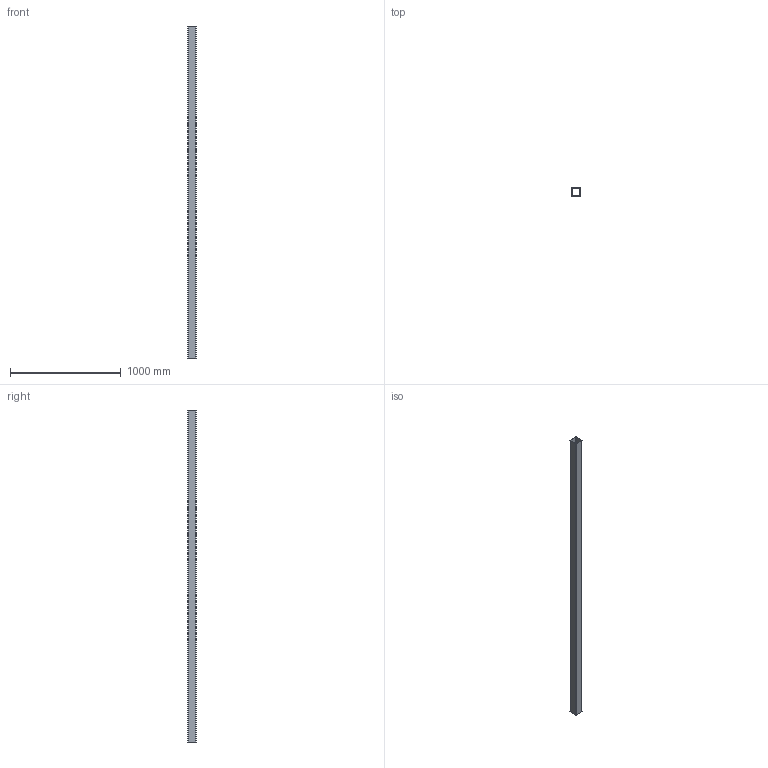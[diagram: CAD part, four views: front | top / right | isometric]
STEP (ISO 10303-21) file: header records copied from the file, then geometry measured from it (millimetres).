
FILE_DESCRIPTION((''),'2;1');
FILE_NAME('9527123000','2017-06-07T',('Frank.Entorf'),(''),'PRO/ENGINEER BY PARAMETRIC TECHNOLOGY CORPORATION, 2012360','PRO/ENGINEER BY PARAMETRIC TECHNOLOGY CORPORATION, 2012360','');
FILE_SCHEMA(('AUTOMOTIVE_DESIGN { 1 0 10303 214 1 1 1 1 }'));
Length unit declared in the file: millimetre
Products named in the file (1): 9527123000
Bounding box: 80 x 80 x 3000 mm (x, y, z)
Volume: 4435619.4 mm3; surface area: 1777204.9 mm2
Topology: 1 solids, 1 shells, 14 faces, 36 edges, 24 vertices
Faces by surface type: plane 10, cylinder 4
Entity records: 1053 total; most frequent: COLOUR_RGB 142, CARTESIAN_POINT 76, DIRECTION 72, ORIENTED_EDGE 72, PROPERTY_DEFINITION 61, REPRESENTATION 60, PROPERTY_DEFINITION_REPRESENTATION 60, DESCRIPTIVE_REPRESENTATION_ITEM 52
